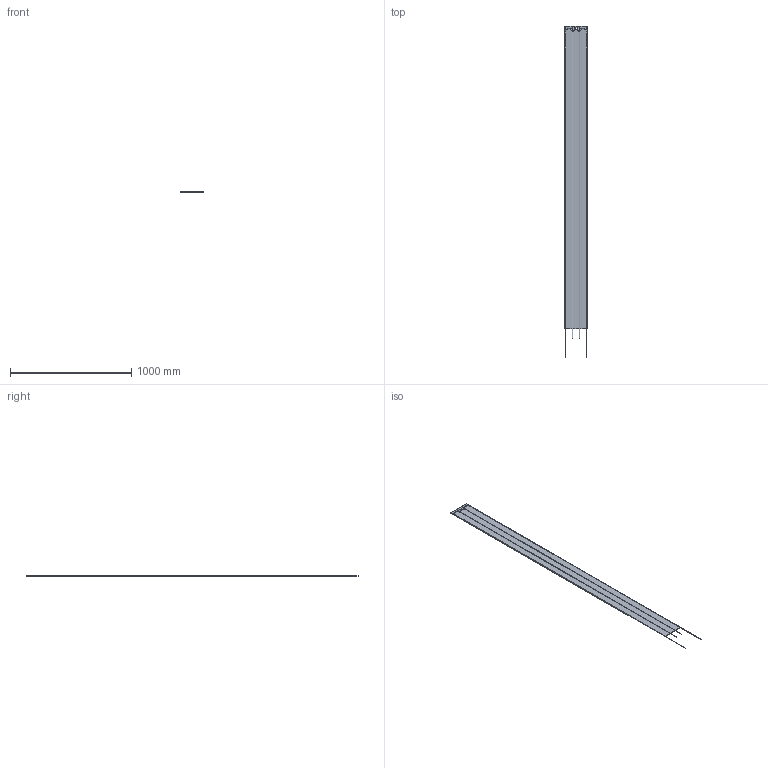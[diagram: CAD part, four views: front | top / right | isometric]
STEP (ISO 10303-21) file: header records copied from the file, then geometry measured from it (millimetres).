
FILE_DESCRIPTION(/* description */ (''),/* implementation_level */ '2;1');
FILE_NAME(/* name */ 'Plate_2500_2tubi.stp',/* time_stamp */ '2018-12-13T11:42:49+01:00',/* author */ (''),/* organization */ (''),/* preprocessor_version */ 'ST-DEVELOPER v16.7',/* originating_system */ 'SIEMENS PLM Software NX 12.0',/* authorisation */ '');
FILE_SCHEMA (('AUTOMOTIVE_DESIGN { 1 0 10303 214 3 1 1 1 }'));
Length unit declared in the file: millimetre
Products named in the file (1): Plate V6_1350_2tubi
Bounding box: 184 x 2740 x 4.25 mm (x, y, z)
Volume: 1344527.5 mm3; surface area: 1116699.5 mm2
Topology: 7 solids, 7 shells, 191 faces, 494 edges, 314 vertices
Faces by surface type: plane 89, cylinder 78, torus 12, bspline 8, cone 4
Full cylindrical faces by diameter (mm): 2.1 x6, 2.4 x6, 2.5 x2, 4 x2
Entity records: 6267 total; most frequent: CARTESIAN_POINT 1568, DIRECTION 960, ORIENTED_EDGE 948, EDGE_CURVE 474, AXIS2_PLACEMENT_3D 344, VERTEX_POINT 314, LINE 272, VECTOR 272
